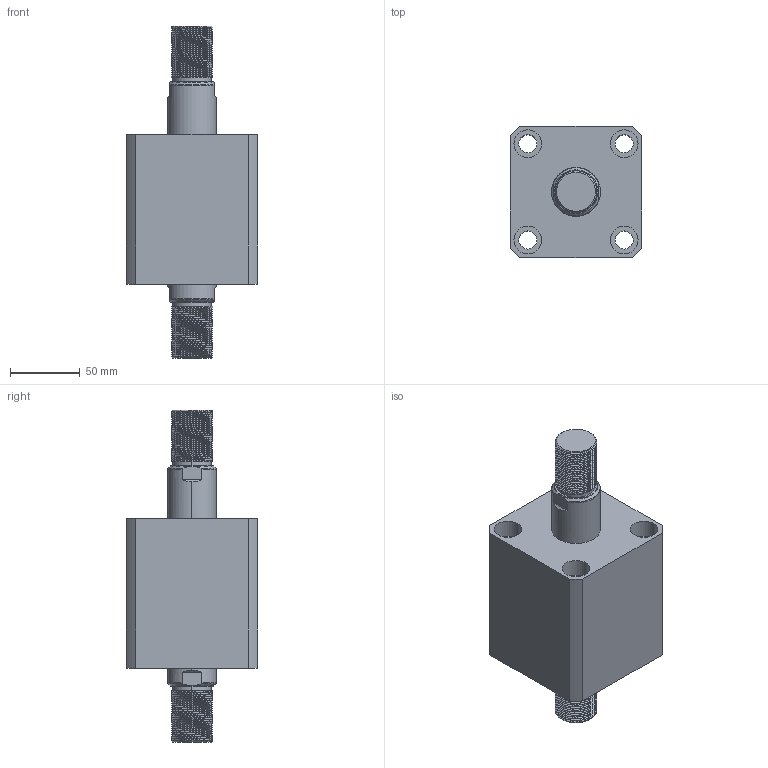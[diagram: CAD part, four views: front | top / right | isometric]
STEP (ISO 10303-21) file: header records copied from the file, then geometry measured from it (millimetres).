
FILE_DESCRIPTION (( 'STEP AP214' ), '1' );
FILE_NAME ('chtb-sw63x25w_asm.STEP', '2018-05-19T03:13:33', ( 'Windows' ), ( 'Microsoft' ), 'SwSTEP 2.0', 'SolidWorks 2015', '' );
FILE_SCHEMA (( 'AUTOMOTIVE_DESIGN' ));
Length unit declared in the file: millimetre
Products named in the file (4): CHTB-SW63X25WHSG; CHTB-SW63X25NBT; CHTB-63QG; chtb-sw63x25w_asm
Assembly tree (3 placements, depth 2):
  chtb-sw63x25w_asm
    CHTB-63QG
    CHTB-SW63X25NBT
    CHTB-SW63X25WHSG
Bounding box: 94 x 94 x 238 mm (x, y, z)
Volume: 903585.9 mm3; surface area: 152234.5 mm2
Topology: 3 solids, 3 shells, 296 faces, 841 edges, 569 vertices
Faces by surface type: cylinder 206, plane 46, bspline 16, cone 16, torus 12
Entity records: 27380 total; most frequent: CARTESIAN_POINT 20442, ORIENTED_EDGE 1674, DIRECTION 1166, EDGE_CURVE 837, VERTEX_POINT 569, AXIS2_PLACEMENT_3D 453, EDGE_LOOP 334, ADVANCED_FACE 296
